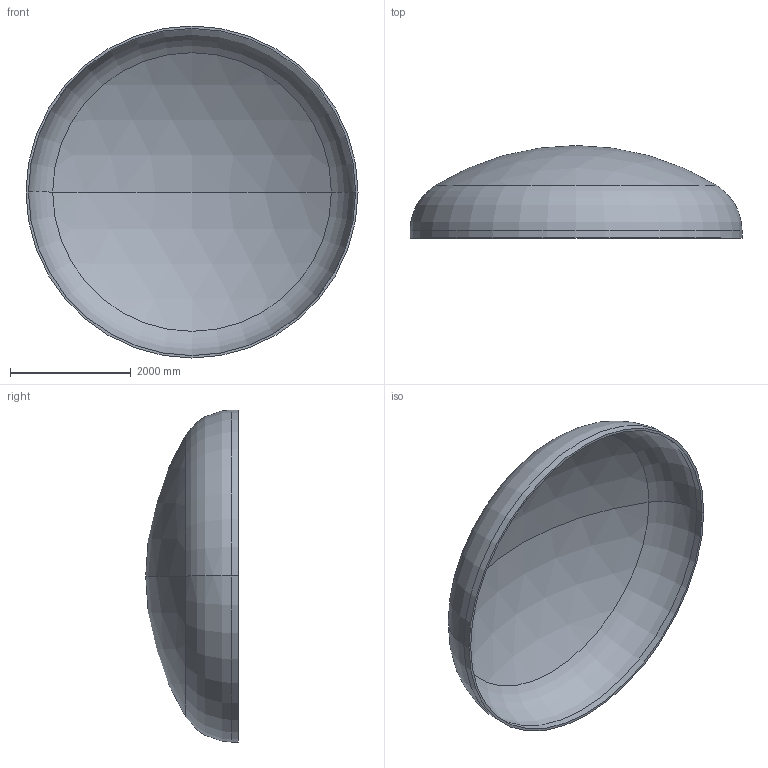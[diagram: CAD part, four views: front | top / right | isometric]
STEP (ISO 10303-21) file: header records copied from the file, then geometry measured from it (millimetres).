
FILE_DESCRIPTION (( 'STEP AP203' ), '1' );
FILE_NAME ('DIN 28013 Korbbogenform_-_Boden DIN 28013 - 5500 x 120 - I - s=40.step', '2016-07-04T10:34:05', ( '' ), ( '' ), 'SwSTEP 2.0', 'SolidWorks 2013', '' );
FILE_SCHEMA (( 'CONFIG_CONTROL_DESIGN' ));
Length unit declared in the file: millimetre
Products named in the file (1): DIN 28013 Korbbogenform_-_Boden DIN 28013 - 5500 x 120 - I - s=40
Bounding box: 5500 x 1533.48 x 5500 mm (x, y, z)
Volume: 1385346802.8 mm3; surface area: 69956788.4 mm2
Topology: 1 solids, 1 shells, 13 faces, 24 edges, 14 vertices
Faces by surface type: torus 4, cylinder 4, sphere 4, plane 1
Entity records: 407 total; most frequent: DIRECTION 72, CARTESIAN_POINT 52, ORIENTED_EDGE 48, AXIS2_PLACEMENT_3D 34, EDGE_CURVE 24, CIRCLE 20, VERTEX_POINT 14, EDGE_LOOP 14
